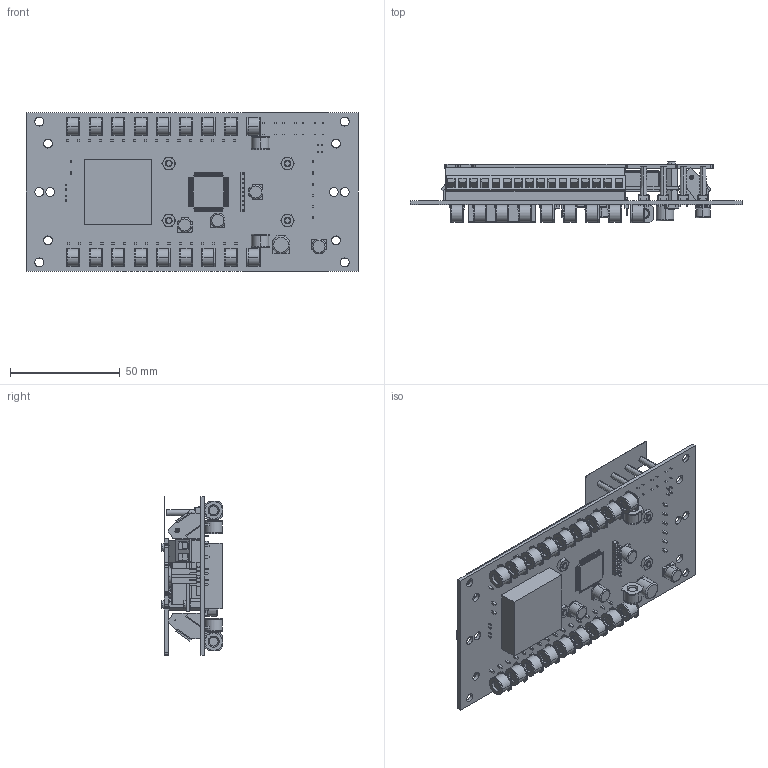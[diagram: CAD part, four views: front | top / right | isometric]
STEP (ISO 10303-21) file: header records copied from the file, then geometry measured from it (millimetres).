
FILE_DESCRIPTION((''),'1');
FILE_NAME('ETLB_8-channel_I.step','2023-11-06T13:16:38',(''),(''),'','','');
FILE_SCHEMA(('AUTOMOTIVE_DESIGN { 1 0 10303 214 1 1 1 1 }'));
Products named in the file (27): ETLB part 01; ETLB screw 01; ETLB part 03; ETLB part 04; ETLB display 01; ETLB display 02; ETLB spacer 01; ETLB spacer 02; ETLB part 05; ETLB part 06; ETLB part 07; ETLB part 08; ETLB button 01; ETLB 8-channel_I; ETLB part 09; ETLB cover 01; ETLB nut 01; ETLB connector 01; 1; 12; 13; ETLB part 11; ETLB part 12; 2; 22; 23; ETLB circuit board 01
Assembly tree (64 placements, depth 5):
  ETLB 8-channel_I
    ETLB part 01
      ETLB screw 01  x4
      ETLB part 03
      ETLB part 04
      ETLB display 01
      ETLB display 02
      ETLB spacer 01  x2
      ETLB spacer 02  x4
      ETLB part 05  x4
      ETLB part 06
      ETLB part 07
      ETLB part 08  x2
      ETLB button 01  x4
    ETLB part 09
      ETLB cover 01
      ETLB nut 01  x4
      ETLB connector 01
      ETLB part 11
        1
          12  x10
          13  x10
        ETLB part 12
        2
          22  x4
          23
    ETLB circuit board 01
Bounding box: 151 x 27.97 x 72 mm (x, y, z)
Volume: 78848.5 mm3; surface area: 73096 mm2
Topology: 59 solids, 59 shells, 5435 faces, 13304 edges, 8556 vertices
Faces by surface type: plane 3449, cylinder 1336, cone 416, torus 194, sphere 40
Entity records: 111222 total; most frequent: CARTESIAN_POINT 19540, ORIENTED_EDGE 16422, DIRECTION 16249, EDGE_CURVE 8211, LINE 5835, VECTOR 5835, VERTEX_POINT 5310, AXIS2_PLACEMENT_3D 5207
